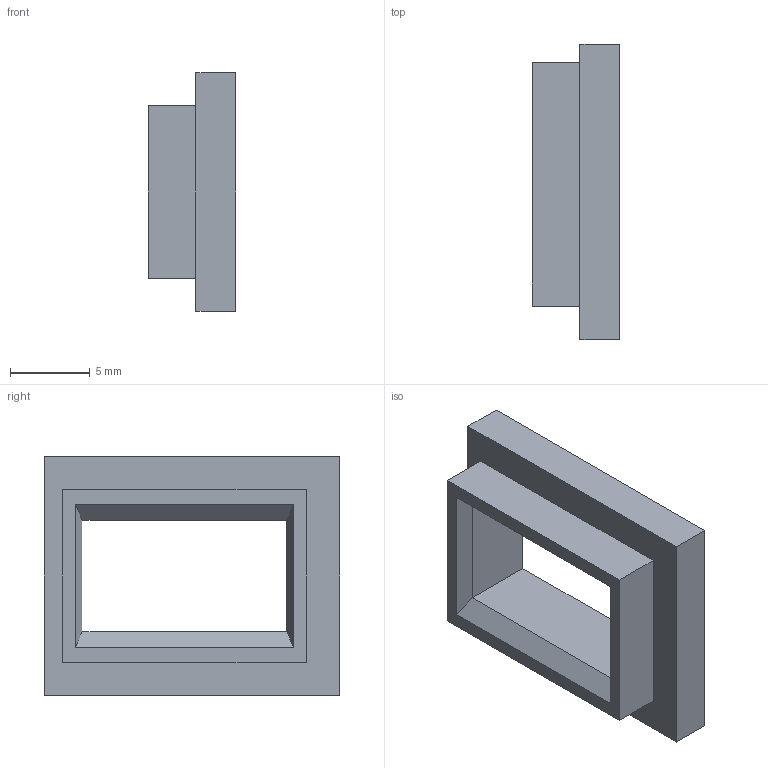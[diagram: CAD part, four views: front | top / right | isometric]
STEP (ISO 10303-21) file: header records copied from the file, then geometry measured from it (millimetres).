
FILE_DESCRIPTION(('Open CASCADE Model'),'2;1');
FILE_NAME('Open CASCADE Shape Model','2026-08-29T07:31:46',('Author'),( 'Open CASCADE'),'Open CASCADE STEP processor 7.9','build123d', 'Unknown');
FILE_SCHEMA(('AUTOMOTIVE_DESIGN { 1 0 10303 214 1 1 1 1 }'));
Length unit declared in the file: millimetre
Products named in the file (1): COMPOUND
Bounding box: 5.5 x 18.54 x 15 mm (x, y, z)
Volume: 680.4 mm3; surface area: 900.9 mm2
Topology: 1 solids, 1 shells, 19 faces, 44 edges, 28 vertices
Faces by surface type: plane 15, bspline 4
Entity records: 1084 total; most frequent: CARTESIAN_POINT 220, DIRECTION 136, LINE 104, VECTOR 104, ORIENTED_EDGE 88, PCURVE 88, DEFINITIONAL_REPRESENTATION 88, EDGE_CURVE 44
